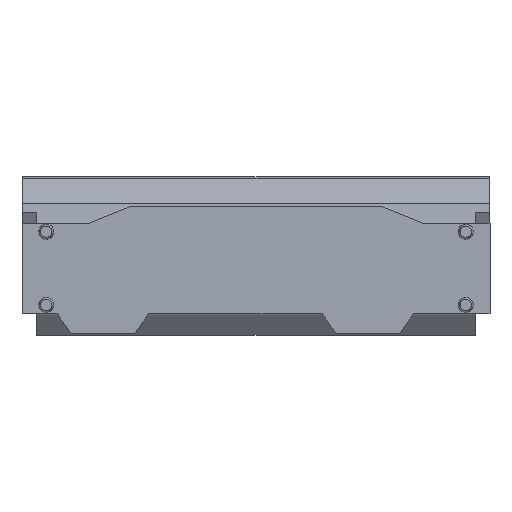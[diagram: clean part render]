
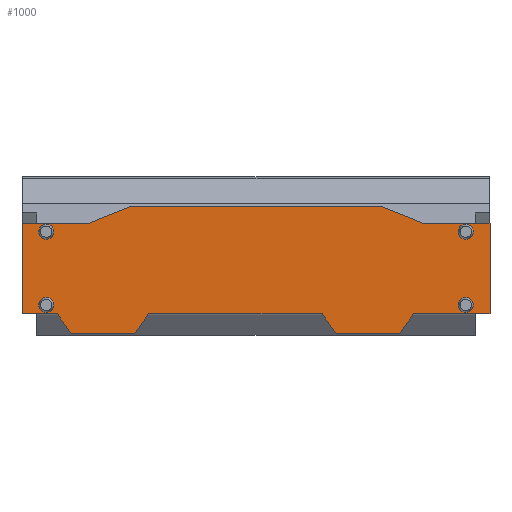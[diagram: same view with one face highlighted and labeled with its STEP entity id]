
A CAD part, front view. The second image highlights one B-rep face of the part: STEP entity #1000.
In plain terms, the highlighted planar face has unit normal (0, -1, 0).
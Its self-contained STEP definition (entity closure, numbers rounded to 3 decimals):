
#27=FACE_BOUND('',#171,.T.);
#28=FACE_BOUND('',#172,.T.);
#29=FACE_BOUND('',#173,.T.);
#30=FACE_BOUND('',#174,.T.);
#63=PLANE('',#1138);
#116=FACE_OUTER_BOUND('',#170,.T.);
#170=EDGE_LOOP('',(#849,#850,#851,#852,#853,#854,#855,#856,#857,#858,#859,
#860,#861,#862,#863,#864));
#171=EDGE_LOOP('',(#865));
#172=EDGE_LOOP('',(#866));
#173=EDGE_LOOP('',(#867));
#174=EDGE_LOOP('',(#868));
#206=LINE('',#1487,#330);
#231=LINE('',#1543,#355);
#237=LINE('',#1554,#361);
#241=LINE('',#1562,#365);
#245=LINE('',#1571,#369);
#248=LINE('',#1577,#372);
#251=LINE('',#1583,#375);
#254=LINE('',#1587,#378);
#255=LINE('',#1590,#379);
#259=LINE('',#1598,#383);
#262=LINE('',#1604,#386);
#265=LINE('',#1610,#389);
#268=LINE('',#1614,#392);
#271=LINE('',#1620,#395);
#274=LINE('',#1627,#398);
#275=LINE('',#1628,#399);
#330=VECTOR('',#1223,10.);
#355=VECTOR('',#1268,10.);
#361=VECTOR('',#1280,10.);
#365=VECTOR('',#1286,10.);
#369=VECTOR('',#1292,10.);
#372=VECTOR('',#1297,10.);
#375=VECTOR('',#1302,10.);
#378=VECTOR('',#1307,10.);
#379=VECTOR('',#1310,10.);
#383=VECTOR('',#1316,10.);
#386=VECTOR('',#1321,10.);
#389=VECTOR('',#1326,10.);
#392=VECTOR('',#1331,10.);
#395=VECTOR('',#1336,10.);
#398=VECTOR('',#1343,10.);
#399=VECTOR('',#1344,10.);
#441=CIRCLE('',#1092,8.);
#443=CIRCLE('',#1096,8.);
#445=CIRCLE('',#1100,8.);
#447=CIRCLE('',#1104,8.);
#455=VERTEX_POINT('',#1435);
#457=VERTEX_POINT('',#1442);
#459=VERTEX_POINT('',#1449);
#461=VERTEX_POINT('',#1456);
#471=VERTEX_POINT('',#1484);
#472=VERTEX_POINT('',#1486);
#491=VERTEX_POINT('',#1539);
#493=VERTEX_POINT('',#1542);
#495=VERTEX_POINT('',#1553);
#498=VERTEX_POINT('',#1561);
#501=VERTEX_POINT('',#1568);
#502=VERTEX_POINT('',#1570);
#504=VERTEX_POINT('',#1576);
#506=VERTEX_POINT('',#1582);
#507=VERTEX_POINT('',#1589);
#510=VERTEX_POINT('',#1597);
#512=VERTEX_POINT('',#1603);
#514=VERTEX_POINT('',#1609);
#516=VERTEX_POINT('',#1618);
#518=VERTEX_POINT('',#1626);
#547=EDGE_CURVE('',#455,#455,#441,.T.);
#550=EDGE_CURVE('',#457,#457,#443,.T.);
#553=EDGE_CURVE('',#459,#459,#445,.T.);
#556=EDGE_CURVE('',#461,#461,#447,.T.);
#570=EDGE_CURVE('',#472,#471,#206,.T.);
#597=EDGE_CURVE('',#491,#493,#231,.T.);
#603=EDGE_CURVE('',#493,#495,#237,.T.);
#607=EDGE_CURVE('',#498,#495,#241,.T.);
#611=EDGE_CURVE('',#501,#502,#245,.T.);
#614=EDGE_CURVE('',#504,#502,#248,.T.);
#617=EDGE_CURVE('',#506,#504,#251,.T.);
#620=EDGE_CURVE('',#491,#506,#254,.T.);
#621=EDGE_CURVE('',#507,#472,#255,.T.);
#625=EDGE_CURVE('',#507,#510,#259,.T.);
#628=EDGE_CURVE('',#512,#510,#262,.T.);
#631=EDGE_CURVE('',#514,#512,#265,.T.);
#634=EDGE_CURVE('',#501,#514,#268,.T.);
#637=EDGE_CURVE('',#471,#516,#271,.T.);
#640=EDGE_CURVE('',#518,#516,#274,.T.);
#641=EDGE_CURVE('',#498,#518,#275,.T.);
#849=ORIENTED_EDGE('',*,*,#637,.T.);
#850=ORIENTED_EDGE('',*,*,#640,.F.);
#851=ORIENTED_EDGE('',*,*,#641,.F.);
#852=ORIENTED_EDGE('',*,*,#607,.T.);
#853=ORIENTED_EDGE('',*,*,#603,.F.);
#854=ORIENTED_EDGE('',*,*,#597,.F.);
#855=ORIENTED_EDGE('',*,*,#620,.T.);
#856=ORIENTED_EDGE('',*,*,#617,.T.);
#857=ORIENTED_EDGE('',*,*,#614,.T.);
#858=ORIENTED_EDGE('',*,*,#611,.F.);
#859=ORIENTED_EDGE('',*,*,#634,.T.);
#860=ORIENTED_EDGE('',*,*,#631,.T.);
#861=ORIENTED_EDGE('',*,*,#628,.T.);
#862=ORIENTED_EDGE('',*,*,#625,.F.);
#863=ORIENTED_EDGE('',*,*,#621,.T.);
#864=ORIENTED_EDGE('',*,*,#570,.T.);
#865=ORIENTED_EDGE('',*,*,#547,.T.);
#866=ORIENTED_EDGE('',*,*,#550,.T.);
#867=ORIENTED_EDGE('',*,*,#553,.T.);
#868=ORIENTED_EDGE('',*,*,#556,.T.);
#1000=ADVANCED_FACE('',(#116,#27,#28,#29,#30),#63,.F.);
#1092=AXIS2_PLACEMENT_3D('',#1436,#1168,#1169);
#1096=AXIS2_PLACEMENT_3D('',#1443,#1177,#1178);
#1100=AXIS2_PLACEMENT_3D('',#1450,#1186,#1187);
#1104=AXIS2_PLACEMENT_3D('',#1457,#1195,#1196);
#1138=AXIS2_PLACEMENT_3D('',#1625,#1341,#1342);
#1168=DIRECTION('center_axis',(0.,1.,0.));
#1169=DIRECTION('ref_axis',(1.,0.,0.));
#1177=DIRECTION('center_axis',(0.,1.,0.));
#1178=DIRECTION('ref_axis',(1.,0.,0.));
#1186=DIRECTION('center_axis',(0.,1.,0.));
#1187=DIRECTION('ref_axis',(1.,0.,0.));
#1195=DIRECTION('center_axis',(0.,1.,0.));
#1196=DIRECTION('ref_axis',(1.,0.,0.));
#1223=DIRECTION('',(0.,0.,1.));
#1268=DIRECTION('',(0.,0.,1.));
#1280=DIRECTION('',(1.,0.,0.));
#1286=DIRECTION('',(-0.927,0.,-0.375));
#1292=DIRECTION('',(-0.581,0.,-0.814));
#1297=DIRECTION('',(1.,0.,0.));
#1302=DIRECTION('',(0.581,0.,-0.814));
#1307=DIRECTION('',(1.,0.,0.));
#1310=DIRECTION('',(1.,0.,0.));
#1316=DIRECTION('',(-0.581,0.,-0.814));
#1321=DIRECTION('',(1.,0.,0.));
#1326=DIRECTION('',(0.581,0.,-0.814));
#1331=DIRECTION('',(1.,0.,0.));
#1336=DIRECTION('',(-1.,0.,0.));
#1341=DIRECTION('center_axis',(0.,1.,0.));
#1342=DIRECTION('ref_axis',(1.,0.,0.));
#1343=DIRECTION('',(0.927,0.,-0.375));
#1344=DIRECTION('',(1.,0.,0.));
#1435=CARTESIAN_POINT('',(216.,0.,-38.718));
#1436=CARTESIAN_POINT('Origin',(224.,0.,-38.718));
#1442=CARTESIAN_POINT('',(216.,0.,39.493));
#1443=CARTESIAN_POINT('Origin',(224.,0.,39.493));
#1449=CARTESIAN_POINT('',(-232.,0.,39.493));
#1450=CARTESIAN_POINT('Origin',(-224.,0.,39.493));
#1456=CARTESIAN_POINT('',(-232.,0.,-38.718));
#1457=CARTESIAN_POINT('Origin',(-224.,0.,-38.718));
#1484=CARTESIAN_POINT('',(249.915,0.,48.3));
#1486=CARTESIAN_POINT('',(249.915,0.,-48.3));
#1487=CARTESIAN_POINT('',(249.915,0.,-48.3));
#1539=CARTESIAN_POINT('',(-249.915,0.,-48.3));
#1542=CARTESIAN_POINT('',(-249.915,0.,48.3));
#1543=CARTESIAN_POINT('',(-249.915,0.,-48.3));
#1553=CARTESIAN_POINT('',(-179.208,0.,48.3));
#1554=CARTESIAN_POINT('',(-500.,0.,48.3));
#1561=CARTESIAN_POINT('',(-134.161,0.,66.5));
#1562=CARTESIAN_POINT('',(-134.161,0.,66.5));
#1568=CARTESIAN_POINT('',(-114.76,0.,-48.3));
#1570=CARTESIAN_POINT('',(-129.546,0.,-69.));
#1571=CARTESIAN_POINT('',(-114.76,0.,-48.3));
#1576=CARTESIAN_POINT('',(-197.403,0.,-69.));
#1577=CARTESIAN_POINT('',(-197.403,0.,-69.));
#1582=CARTESIAN_POINT('',(-212.189,0.,-48.3));
#1583=CARTESIAN_POINT('',(-212.189,0.,-48.3));
#1587=CARTESIAN_POINT('',(-838.724,0.,-48.3));
#1589=CARTESIAN_POINT('',(168.174,0.,-48.3));
#1590=CARTESIAN_POINT('',(-555.79,0.,-48.3));
#1597=CARTESIAN_POINT('',(153.389,0.,-69.));
#1598=CARTESIAN_POINT('',(168.174,0.,-48.3));
#1603=CARTESIAN_POINT('',(85.532,0.,-69.));
#1604=CARTESIAN_POINT('',(85.532,0.,-69.));
#1609=CARTESIAN_POINT('',(70.746,0.,-48.3));
#1610=CARTESIAN_POINT('',(70.746,0.,-48.3));
#1614=CARTESIAN_POINT('',(-555.79,0.,-48.3));
#1618=CARTESIAN_POINT('',(179.208,0.,48.3));
#1620=CARTESIAN_POINT('',(249.915,0.,48.3));
#1625=CARTESIAN_POINT('Origin',(-1.,0.,-1.25));
#1626=CARTESIAN_POINT('',(134.161,0.,66.5));
#1627=CARTESIAN_POINT('',(134.161,0.,66.5));
#1628=CARTESIAN_POINT('',(-134.161,0.,66.5));
